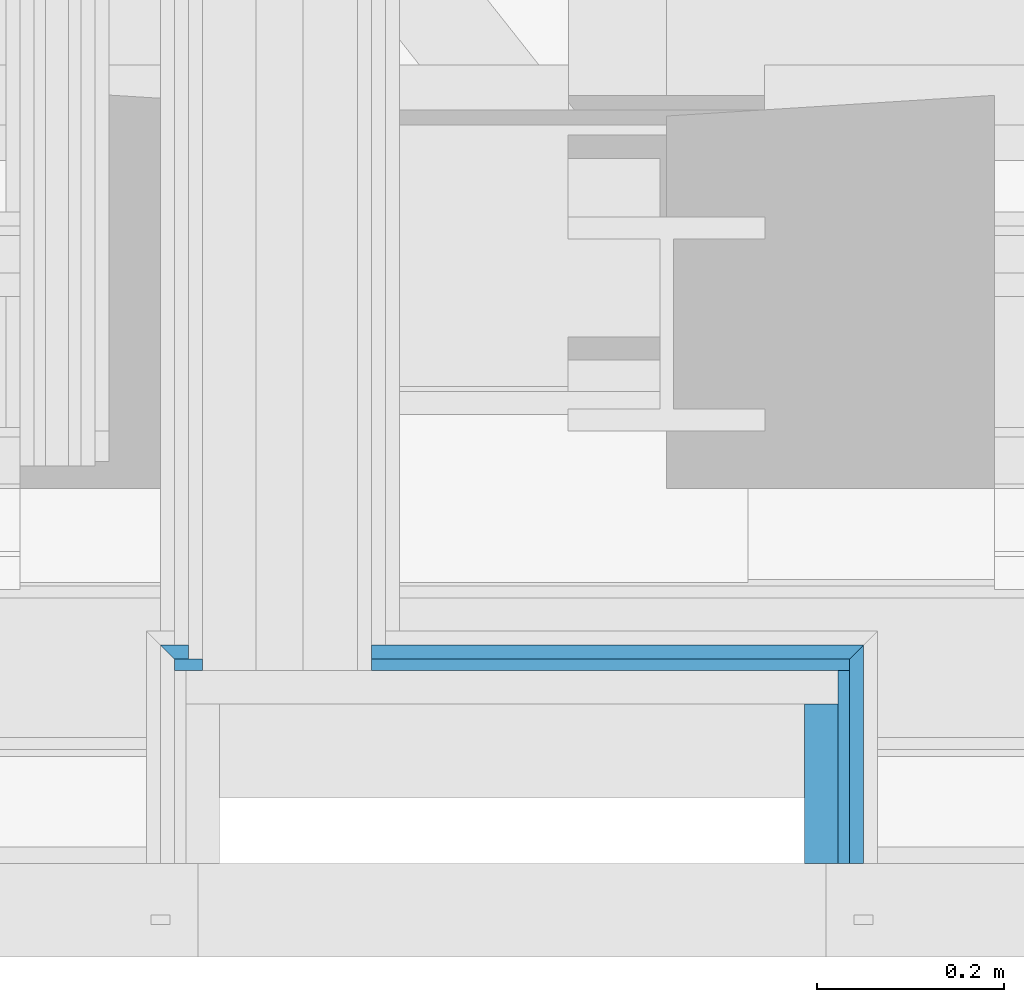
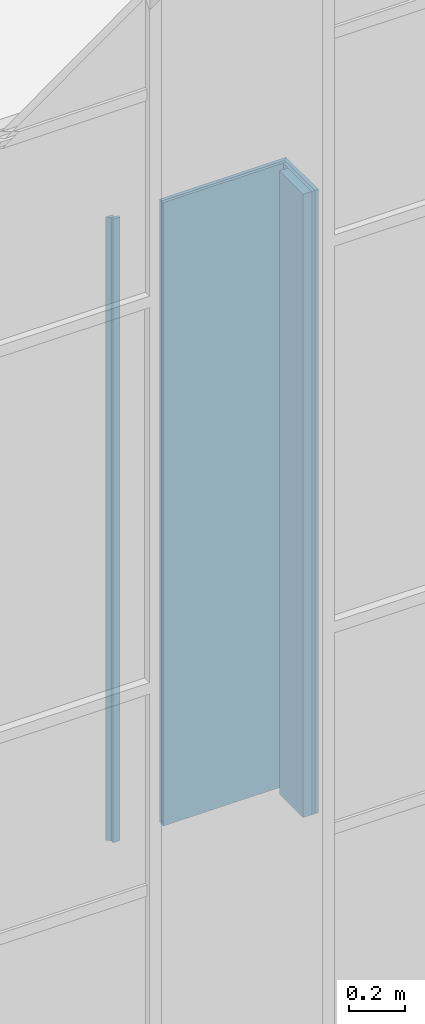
# One storey, part 27 of 183: 7 building element parts, 2 elements without a shape of their own.
"""IFC2X3 building model written with IfcOpenShell, lengths in metres."""

from ifc_helpers import new_model, entity, si_unit, converted_unit, derived_unit, money_unit, direction, frame, frame_2d, origin_with_axes, place, context, subcontext, project, spatial, polyline, rectangle, outline, extrude, material, type_object, element, aggregate, save


model = new_model("IFC2X3")

# Units and contexts
model_context = context("Model", 3, precision=1e-05, world=origin_with_axes(), true_north=direction((0.0, 1.0)))
body_context = subcontext(model_context, "Body", "Model", "MODEL_VIEW", scale=1.0)
ifc_project = project(units=[si_unit("LENGTHUNIT", "METRE"), si_unit("AREAUNIT", "SQUARE_METRE"), si_unit("VOLUMEUNIT", "CUBIC_METRE"), si_unit("ABSORBEDDOSEUNIT", "GRAY"), si_unit("AMOUNTOFSUBSTANCEUNIT", "MOLE"), si_unit("DOSEEQUIVALENTUNIT", "SIEVERT"), si_unit("ELECTRICCAPACITANCEUNIT", "FARAD"), si_unit("ELECTRICCHARGEUNIT", "COULOMB"), si_unit("ELECTRICCONDUCTANCEUNIT", "SIEMENS"), si_unit("ELECTRICCURRENTUNIT", "AMPERE"), si_unit("ELECTRICRESISTANCEUNIT", "OHM"), si_unit("ELECTRICVOLTAGEUNIT", "VOLT"), si_unit("ENERGYUNIT", "JOULE"), si_unit("FORCEUNIT", "NEWTON"), si_unit("FREQUENCYUNIT", "HERTZ"), si_unit("ILLUMINANCEUNIT", "LUX"), si_unit("INDUCTANCEUNIT", "HENRY"), si_unit("LUMINOUSFLUXUNIT", "LUMEN"), si_unit("LUMINOUSINTENSITYUNIT", "CANDELA"), si_unit("MAGNETICFLUXDENSITYUNIT", "TESLA"), si_unit("MAGNETICFLUXUNIT", "WEBER"), si_unit("MASSUNIT", "GRAM"), converted_unit("PLANEANGLEUNIT", "degree", entity("IfcReal", 0.0174532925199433), si_unit("PLANEANGLEUNIT", "RADIAN"), dimensions=[0, 0, 0, 0, 0, 0, 0]), si_unit("POWERUNIT", "WATT"), si_unit("PRESSUREUNIT", "PASCAL"), si_unit("RADIOACTIVITYUNIT", "BECQUEREL"), si_unit("SOLIDANGLEUNIT", "STERADIAN"), si_unit("THERMODYNAMICTEMPERATUREUNIT", "KELVIN"), si_unit("TIMEUNIT", "SECOND"), derived_unit("ACCELERATIONUNIT", [(si_unit("LENGTHUNIT", "METRE"), 1), (si_unit("TIMEUNIT", "SECOND"), -2)]), derived_unit("ANGULARVELOCITYUNIT", [(converted_unit("PLANEANGLEUNIT", "degree", entity("IfcReal", 0.0174532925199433), si_unit("PLANEANGLEUNIT", "RADIAN"), dimensions=[0, 0, 0, 0, 0, 0, 0]), 1), (si_unit("TIMEUNIT", "SECOND"), -1)]), derived_unit("CURVATUREUNIT", [(converted_unit("PLANEANGLEUNIT", "degree", entity("IfcReal", 0.0174532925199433), si_unit("PLANEANGLEUNIT", "RADIAN"), dimensions=[0, 0, 0, 0, 0, 0, 0]), 1), (si_unit("LENGTHUNIT", "METRE"), -1)]), derived_unit("DYNAMICVISCOSITYUNIT", [(si_unit("PRESSUREUNIT", "PASCAL"), 1), (si_unit("TIMEUNIT", "SECOND"), 1)]), derived_unit("HEATFLUXDENSITYUNIT", [(si_unit("POWERUNIT", "WATT"), 1), (si_unit("LENGTHUNIT", "METRE"), -2)]), derived_unit("HEATINGVALUEUNIT", [(si_unit("ENERGYUNIT", "JOULE"), 1), (si_unit("MASSUNIT", "GRAM"), -1)]), derived_unit("INTEGERCOUNTRATEUNIT", [(si_unit("TIMEUNIT", "SECOND"), -1)]), derived_unit("IONCONCENTRATIONUNIT", [(si_unit("MASSUNIT", "GRAM"), 1), (si_unit("VOLUMEUNIT", "CUBIC_METRE"), -1)]), derived_unit("ISOTHERMALMOISTURECAPACITYUNIT", [(si_unit("VOLUMEUNIT", "CUBIC_METRE"), 1), (si_unit("MASSUNIT", "GRAM"), -1)]), derived_unit("KINEMATICVISCOSITYUNIT", [(si_unit("AREAUNIT", "SQUARE_METRE"), 1), (si_unit("TIMEUNIT", "SECOND"), -1)]), derived_unit("LINEARFORCEUNIT", [(si_unit("FORCEUNIT", "NEWTON"), 1), (si_unit("LENGTHUNIT", "METRE"), -1)]), derived_unit("LINEARMOMENTUNIT", [(si_unit("FORCEUNIT", "NEWTON"), 1), (si_unit("LENGTHUNIT", "METRE"), -1)]), derived_unit("LINEARSTIFFNESSUNIT", [(si_unit("FORCEUNIT", "NEWTON"), 1), (si_unit("LENGTHUNIT", "METRE"), -1)]), derived_unit("LINEARVELOCITYUNIT", [(si_unit("LENGTHUNIT", "METRE"), 1), (si_unit("TIMEUNIT", "SECOND"), -1)]), derived_unit("LUMINOUSINTENSITYDISTRIBUTIONUNIT", [(si_unit("LUMINOUSINTENSITYUNIT", "CANDELA"), 1), (si_unit("LUMINOUSFLUXUNIT", "LUMEN"), -1)]), derived_unit("MASSDENSITYUNIT", [(si_unit("MASSUNIT", "GRAM"), 1), (si_unit("VOLUMEUNIT", "CUBIC_METRE"), -1)]), derived_unit("MASSFLOWRATEUNIT", [(si_unit("MASSUNIT", "GRAM"), 1), (si_unit("TIMEUNIT", "SECOND"), -1)]), derived_unit("MASSPERLENGTHUNIT", [(si_unit("MASSUNIT", "GRAM"), 1), (si_unit("LENGTHUNIT", "METRE"), -1)]), derived_unit("MODULUSOFELASTICITYUNIT", [(si_unit("FORCEUNIT", "NEWTON"), 1), (si_unit("AREAUNIT", "SQUARE_METRE"), -1)]), derived_unit("MODULUSOFLINEARSUBGRADEREACTIONUNIT", [(si_unit("FORCEUNIT", "NEWTON"), 1), (si_unit("LENGTHUNIT", "METRE"), -2)]), derived_unit("MODULUSOFROTATIONALSUBGRADEREACTIONUNIT", [(si_unit("FORCEUNIT", "NEWTON"), 1), (si_unit("LENGTHUNIT", "METRE"), 1)]), derived_unit("MODULUSOFSUBGRADEREACTIONUNIT", [(si_unit("FORCEUNIT", "NEWTON"), 1), (si_unit("VOLUMEUNIT", "CUBIC_METRE"), -1)]), derived_unit("MOISTUREDIFFUSIVITYUNIT", [(si_unit("VOLUMEUNIT", "CUBIC_METRE"), 1), (si_unit("TIMEUNIT", "SECOND"), -1)]), derived_unit("MOLECULARWEIGHTUNIT", [(si_unit("MASSUNIT", "GRAM"), 1), (si_unit("AMOUNTOFSUBSTANCEUNIT", "MOLE"), -1)]), derived_unit("PLANARFORCEUNIT", [(si_unit("FORCEUNIT", "NEWTON"), 1), (si_unit("LENGTHUNIT", "METRE"), -2)]), derived_unit("ROTATIONALFREQUENCYUNIT", [(si_unit("TIMEUNIT", "SECOND"), -1)]), derived_unit("ROTATIONALMASSUNIT", [(si_unit("MASSUNIT", "GRAM"), 1), (si_unit("LENGTHUNIT", "METRE"), 2)]), derived_unit("ROTATIONALSTIFFNESSUNIT", [(si_unit("FORCEUNIT", "NEWTON"), 1), (si_unit("LENGTHUNIT", "METRE"), 1), (converted_unit("PLANEANGLEUNIT", "degree", entity("IfcReal", 0.0174532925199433), si_unit("PLANEANGLEUNIT", "RADIAN"), dimensions=[0, 0, 0, 0, 0, 0, 0]), -1)]), derived_unit("SECTIONAREAINTEGRALUNIT", [(si_unit("LENGTHUNIT", "METRE"), 5)]), derived_unit("SECTIONMODULUSUNIT", [(si_unit("LENGTHUNIT", "METRE"), 3)]), derived_unit("SHEARMODULUSUNIT", [(si_unit("FORCEUNIT", "NEWTON"), 1), (si_unit("AREAUNIT", "SQUARE_METRE"), -1)]), derived_unit("SOUNDPOWERUNIT", [(si_unit("ENERGYUNIT", "JOULE"), 1), (si_unit("TIMEUNIT", "SECOND"), -1)]), derived_unit("SPECIFICHEATCAPACITYUNIT", [(si_unit("FORCEUNIT", "NEWTON"), 1), (si_unit("MASSUNIT", "GRAM"), -1), (si_unit("THERMODYNAMICTEMPERATUREUNIT", "KELVIN"), -1)]), derived_unit("TEMPERATUREGRADIENTUNIT", [(si_unit("THERMODYNAMICTEMPERATUREUNIT", "KELVIN"), 1), (si_unit("LENGTHUNIT", "METRE"), -1)]), derived_unit("THERMALADMITTANCEUNIT", [(si_unit("POWERUNIT", "WATT"), 1), (si_unit("AREAUNIT", "SQUARE_METRE"), -1), (si_unit("THERMODYNAMICTEMPERATUREUNIT", "KELVIN"), -1)]), derived_unit("THERMALCONDUCTANCEUNIT", [(si_unit("POWERUNIT", "WATT"), 1), (si_unit("LENGTHUNIT", "METRE"), -1), (si_unit("THERMODYNAMICTEMPERATUREUNIT", "KELVIN"), -1)]), derived_unit("THERMALEXPANSIONCOEFFICIENTUNIT", [(si_unit("THERMODYNAMICTEMPERATUREUNIT", "KELVIN"), -1)]), derived_unit("THERMALRESISTANCEUNIT", [(si_unit("AREAUNIT", "SQUARE_METRE"), 1), (si_unit("POWERUNIT", "WATT"), -1)]), derived_unit("THERMALTRANSMITTANCEUNIT", [(si_unit("POWERUNIT", "WATT"), 1), (si_unit("AREAUNIT", "SQUARE_METRE"), -1), (si_unit("THERMODYNAMICTEMPERATUREUNIT", "KELVIN"), -1)]), derived_unit("TORQUEUNIT", [(si_unit("FORCEUNIT", "NEWTON"), 1), (si_unit("LENGTHUNIT", "METRE"), 1)]), derived_unit("VAPORPERMEABILITYUNIT", [(si_unit("MASSUNIT", "GRAM"), 1), (si_unit("TIMEUNIT", "SECOND"), -1)]), derived_unit("VOLUMETRICFLOWRATEUNIT", [(si_unit("VOLUMEUNIT", "CUBIC_METRE"), 1), (si_unit("TIMEUNIT", "SECOND"), -1)]), derived_unit("WARPINGCONSTANTUNIT", [(si_unit("LENGTHUNIT", "METRE"), 6)]), derived_unit("WARPINGMOMENTUNIT", [(si_unit("FORCEUNIT", "NEWTON"), 1), (si_unit("LENGTHUNIT", "METRE"), 2)]), money_unit("GBP")], contexts=[model_context])

# Site, building, storey
site_placement = place(None, origin_with_axes())
site = spatial("IfcSite", under=ifc_project, at=site_placement, Name="Site", CompositionType="ELEMENT")
building_placement = place(site_placement, origin_with_axes())
building = spatial("IfcBuilding", under=site, at=building_placement, Name="Building01", CompositionType="ELEMENT")
storey_placement = place(building_placement, frame((0.0, 0.0, 5.15), z_axis=(0.0, 0.0, 1.0), x_axis=(1.0, 0.0, 0.0)))
storey = spatial("IfcBuildingStorey", under=building, at=storey_placement, Name="1F", CompositionType="ELEMENT", Elevation=5.15)

# Wall, building element parts
wall_type = type_object("IfcWallType", Name="SHE_A-Walls_Type06f_ExternalWallInsulation_48+15mm", PredefinedType="NOTDEFINED")
wall_1_placement = place(storey_placement, frame((5.057, 0.27, 0.0), z_axis=(0.0, 0.0, 1.0), x_axis=(0.0, -1.0, 0.0)))
wall_1 = element("IfcWall", 1, at=wall_1_placement, inside=storey, type_object=wall_type, Name="6F", ObjectType="SHE_A-Walls_Type06f_ExternalWallInsulation_48+15mm")
ifc_material_1 = material(Name="A_BSUK_Insulation")
placement_1 = place(wall_1_placement, origin_with_axes())
building_element_part_1 = element("IfcBuildingElementPart", 2, at=placement_1, material=ifc_material_1, Name="1", context=body_context, shape_type="SweptSolid", body=[
    extrude(rectangle(XDim=0.036, YDim=0.17, at=frame_2d((0.085, 0.018), x_axis=(0.0, -1.0))), origin_with_axes(), (0.0, 0.0, 1.0), 2.74),
])
ifc_material_2 = material(Name="A_BSUK_WallInternal_Finishes_Plasterboard")
building_element_part_2 = element("IfcBuildingElementPart", 3, at=placement_1, material=ifc_material_2, Name="2", context=body_context, shape_type="SweptSolid", body=[
    extrude(rectangle(XDim=0.012, YDim=0.206, at=frame_2d((0.067, 0.042), x_axis=(0.0, -1.0))), origin_with_axes(), (0.0, 0.0, 1.0), 2.74),
])
building_element_part_3 = element("IfcBuildingElementPart", 4, at=placement_1, material=ifc_material_2, Name="3", context=body_context, shape_type="SweptSolid", body=[
    extrude(outline(polyline([(-0.063, 0.063), (-0.048, 0.048), (0.17, 0.048), (0.17, 0.063), (-0.063, 0.063)])), origin_with_axes(), (0.0, 0.0, 1.0), 2.74),
])
aggregate(wall_1, [building_element_part_1, building_element_part_2, building_element_part_3])

wall_2_placement = place(storey_placement, frame((4.397, 0.27, 0.0), z_axis=(0.0, 0.0, 1.0), x_axis=(1.0, 0.0, 0.0)))
wall_2 = element("IfcWall", 5, at=wall_2_placement, inside=storey, type_object=wall_type, Name="6F", ObjectType="SHE_A-Walls_Type06f_ExternalWallInsulation_48+15mm")
placement_2 = place(wall_2_placement, origin_with_axes())
building_element_part_4 = element("IfcBuildingElementPart", 6, at=placement_2, material=ifc_material_2, Name="2", context=body_context, shape_type="SweptSolid", body=[
    extrude(rectangle(XDim=0.03, YDim=0.012, at=frame_2d((0.003, 0.042), x_axis=(-1.0, 0.0))), origin_with_axes(), (0.0, 0.0, 1.0), 2.74),
])
building_element_part_5 = element("IfcBuildingElementPart", 7, at=placement_2, material=ifc_material_2, Name="3", context=body_context, shape_type="SweptSolid", body=[
    extrude(rectangle(XDim=0.51, YDim=0.012, at=frame_2d((0.453, 0.042), x_axis=(-1.0, 0.0))), origin_with_axes(), (0.0, 0.0, 1.0), 2.74),
])
building_element_part_6 = element("IfcBuildingElementPart", 8, at=placement_2, material=ifc_material_2, Name="4", context=body_context, shape_type="SweptSolid", body=[
    extrude(outline(polyline([(0.003, 0.063), (-0.027, 0.063), (-0.012, 0.048), (0.003, 0.048), (0.003, 0.063)])), origin_with_axes(), (0.0, 0.0, 1.0), 2.74),
])
building_element_part_7 = element("IfcBuildingElementPart", 9, at=placement_2, material=ifc_material_2, Name="5", context=body_context, shape_type="SweptSolid", body=[
    extrude(outline(polyline([(0.723, 0.063), (0.198, 0.063), (0.198, 0.048), (0.708, 0.048), (0.723, 0.063)])), origin_with_axes(), (0.0, 0.0, 1.0), 2.74),
])
aggregate(wall_2, [building_element_part_4, building_element_part_5, building_element_part_6, building_element_part_7])

save(model, "model.ifc")
